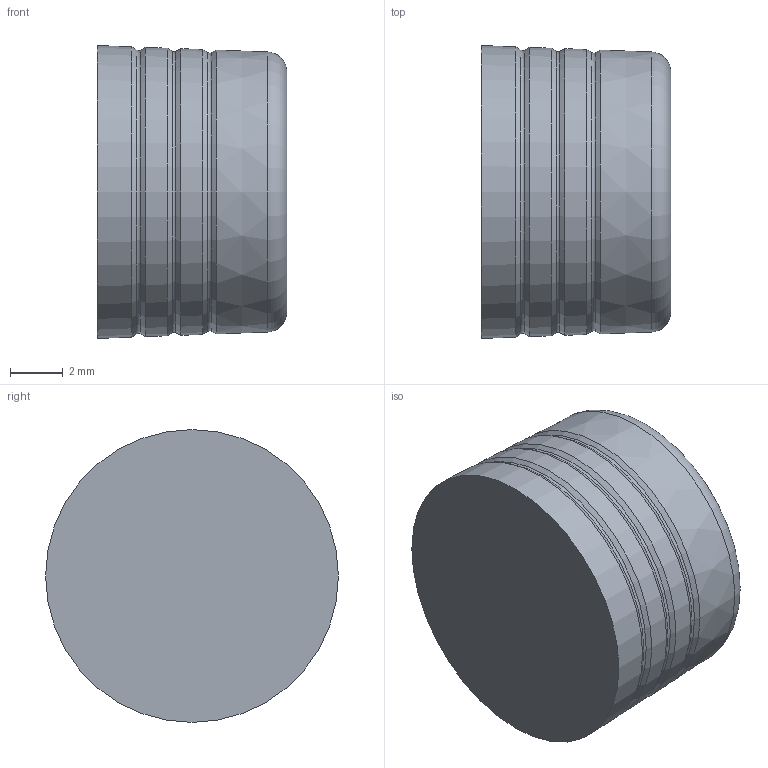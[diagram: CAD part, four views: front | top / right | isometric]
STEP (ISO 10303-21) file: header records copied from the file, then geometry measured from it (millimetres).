
FILE_DESCRIPTION(/* description */ ('LEE BETAPLUG, 11mm, SHORT, INDENT'),/* implementation_level */ '2;1');
FILE_NAME(/* name */ '\\ABSOLUTE\SmWork\Vernon\PLBA1103610S.stp',/* time_stamp */ '2021-03-23T15:12:05-04:00',/* author */ ('VernonJ'),/* organization */ (''),/* preprocessor_version */ 'ST-DEVELOPER v18',/* originating_system */ 'Autodesk Inventor 2020',/* authorisation */ '');
FILE_SCHEMA (('AUTOMOTIVE_DESIGN { 1 0 10303 214 3 1 1 }'));
Length unit declared in the file: millimetre
Products named in the file (1): PLBA1103610S
Bounding box: 7.17 x 11.07 x 11.07 mm (x, y, z)
Volume: 649.6 mm3; surface area: 422.8 mm2
Topology: 1 solids, 1 shells, 16 faces, 51 edges, 37 vertices
Faces by surface type: cone 10, torus 4, plane 2
Entity records: 649 total; most frequent: DIRECTION 126, CARTESIAN_POINT 105, ORIENTED_EDGE 102, AXIS2_PLACEMENT_3D 58, EDGE_CURVE 51, CIRCLE 41, VERTEX_POINT 37, FACE_OUTER_BOUND 16
